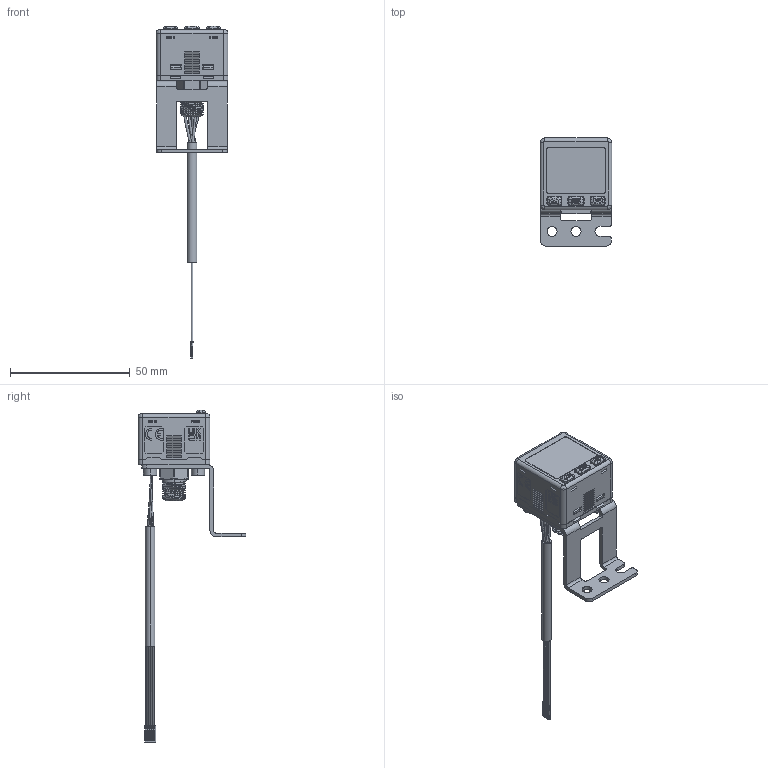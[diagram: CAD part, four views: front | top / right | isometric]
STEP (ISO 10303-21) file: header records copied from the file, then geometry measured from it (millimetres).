
FILE_DESCRIPTION((''),'2;1');
FILE_NAME('KP48E_BT-23','2024-12-12T',('tommy'),(''),'CREO PARAMETRIC BY PTC INC, 2014500','CREO PARAMETRIC BY PTC INC, 2014500','');
FILE_SCHEMA(('CONFIG_CONTROL_DESIGN'));
Products named in the file (1): KP48E_BT-23
Bounding box: 30 x 45 x 138.55 mm (x, y, z)
Volume: 10769.4 mm3; surface area: 17627.6 mm2
Topology: 1 solids, 1 shells, 2974 faces, 8508 edges, 5459 vertices
Faces by surface type: plane 1839, cylinder 565, bspline 248, extrusion 216, cone 102, torus 4
Entity records: 127252 total; most frequent: CARTESIAN_POINT 52265, ORIENTED_EDGE 16948, DIRECTION 13444, EDGE_CURVE 8474, VECTOR 5834, LINE 5618, VERTEX_POINT 5459, AXIS2_PLACEMENT_3D 3805
